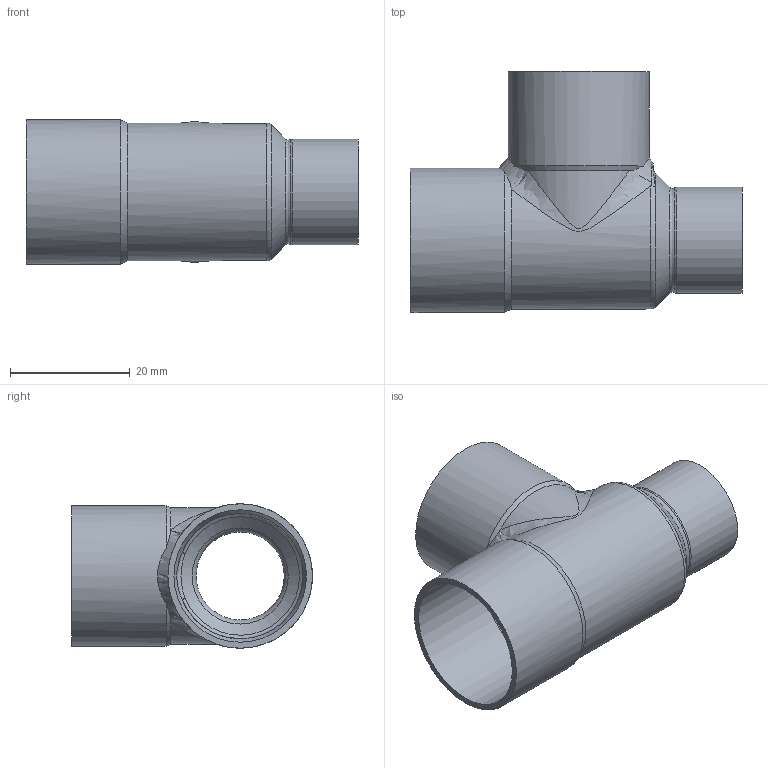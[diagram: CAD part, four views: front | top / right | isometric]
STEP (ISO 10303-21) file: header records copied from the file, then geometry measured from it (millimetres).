
FILE_DESCRIPTION((''),'2;1');
FILE_NAME('G:\SANHA-TERNAT\Technik\Management\Bouwmaten + markeringen\z-maattekeningen 3D\5000\5130\5130222215.stp','2014-08-27T15:34:59',('vdvijverd'),(''),'Autodesk Inventor 2009','Autodesk Inventor 2009','');
FILE_SCHEMA(('AUTOMOTIVE_DESIGN { 1 0 10303 214 1 1 1 1 }'));
Length unit declared in the file: millimetre
Products named in the file (1): 5130222215
Bounding box: 55.5 x 40.27 x 24.15 mm (x, y, z)
Volume: 4691.9 mm3; surface area: 9655.8 mm2
Topology: 1 solids, 1 shells, 37 faces, 94 edges, 54 vertices
Faces by surface type: cylinder 12, bspline 10, cone 7, torus 4, plane 4
Full cylindrical faces by diameter (mm): 15.12 x1, 17.7 x1, 22.15 x2, 23.55 x1, 24.15 x1
Entity records: 2798 total; most frequent: CARTESIAN_POINT 2034, DIRECTION 148, ORIENTED_EDGE 142, AXIS2_PLACEMENT_3D 74, EDGE_CURVE 71, EDGE_LOOP 54, VERTEX_POINT 49, CIRCLE 38
